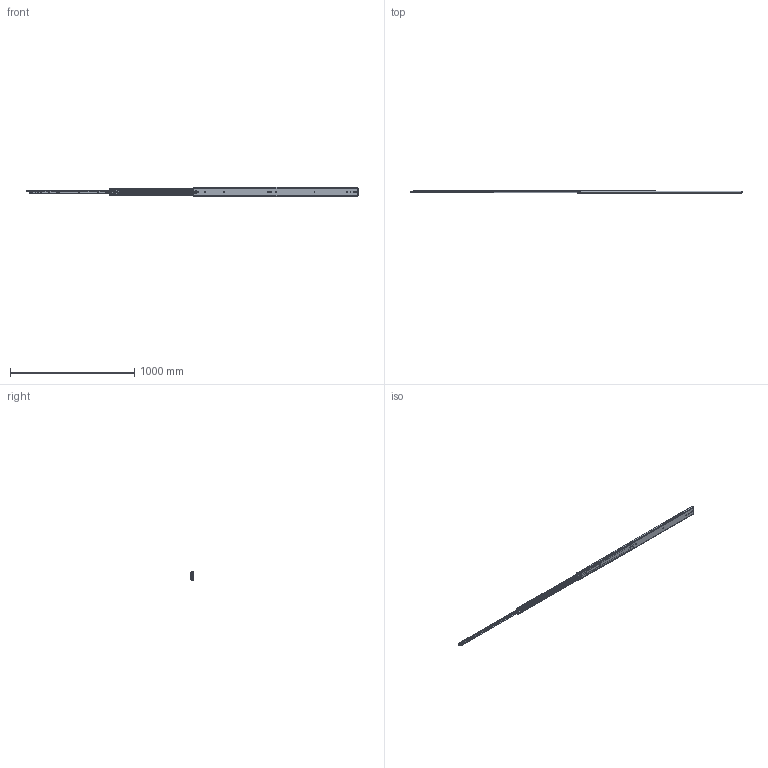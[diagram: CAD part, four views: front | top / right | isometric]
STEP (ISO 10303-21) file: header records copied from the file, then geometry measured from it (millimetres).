
FILE_DESCRIPTION((''),'2;1');
FILE_NAME('DG-76-3S-52YOU_ASM','2023-05-11T',('jishu015'),(''),'PRO/ENGINEER BY PARAMETRIC TECHNOLOGY CORPORATION, 2010280','PRO/ENGINEER BY PARAMETRIC TECHNOLOGY CORPORATION, 2010280','');
FILE_SCHEMA(('CONFIG_CONTROL_DESIGN'));
Products named in the file (29): KP-76-04WAIKE-1816_____________; 1076-WAIKEZIDANJIAO1621__; WAIK16______________ASM; 1076XIAOZHUTIAO-2251621__; 16_____________; 1076XIAOZHUTIAO-1751621___ASM; KP-76-04ZHONGGUI181611_; 76CHANGGUIZHONGGUIJIAO1621_____; 3X6WODIN16_____________; ZHONGGUIBAIKOU16_____________; PJ-76-30____________; PJ-76-03____________; 76-XIAOZHUJIA-11____________; GANGZHU-XIAO____________; ZHUJIA-XIAO_____________ASM; ZHONGGUI6______________ASM; KP-76-04NEIGUI1816_____________; PJ-76-31____________; DAOGPIAN16_____________; 1053-3SBANJ01____________; JIAO-11____________; 76XINSUOKOU____________; PJ-338____________; PJ-356____________; PJ-357____________; PJ-336____________; M4X4____________; NEIGUI16______________ASM; DG-76-3S-52YOU_ASM
Assembly tree (102 placements, depth 4):
  DG-76-3S-52YOU_ASM
    WAIK16______________ASM
      KP-76-04WAIKE-1816_____________
      1076-WAIKEZIDANJIAO1621__  x2
    1076XIAOZHUTIAO-1751621___ASM  x2
      1076XIAOZHUTIAO-2251621__
      16_____________
    ZHONGGUI6______________ASM
      KP-76-04ZHONGGUI181611_
      76CHANGGUIZHONGGUIJIAO1621_____
      3X6WODIN16_____________
      ZHONGGUIBAIKOU16_____________
      PJ-76-30____________
      PJ-76-03____________
      ZHUJIA-XIAO_____________ASM
        76-XIAOZHUJIA-11____________
        GANGZHU-XIAO____________  x50
    NEIGUI16______________ASM
      KP-76-04NEIGUI1816_____________
      PJ-76-31____________
      DAOGPIAN16_____________
      1053-3SBANJ01____________
      JIAO-11____________
      76XINSUOKOU____________
      PJ-338____________
      PJ-356____________
      PJ-357____________
      PJ-336____________
      M4X4____________
Bounding box: 2667.52 x 20.7 x 75.3 mm (x, y, z)
Volume: 874193.3 mm3; surface area: 842946.5 mm2
Topology: 122 solids, 122 shells, 2825 faces, 8663 edges, 5459 vertices
Faces by surface type: plane 1462, cylinder 1033, sphere 203, bspline 60, cone 28, extrusion 23, torus 16
Entity records: 89683 total; most frequent: CARTESIAN_POINT 23636, ORIENTED_EDGE 14546, DIRECTION 13029, EDGE_CURVE 7273, VERTEX_POINT 4739, AXIS2_PLACEMENT_3D 4510, VECTOR 4009, LINE 3986
